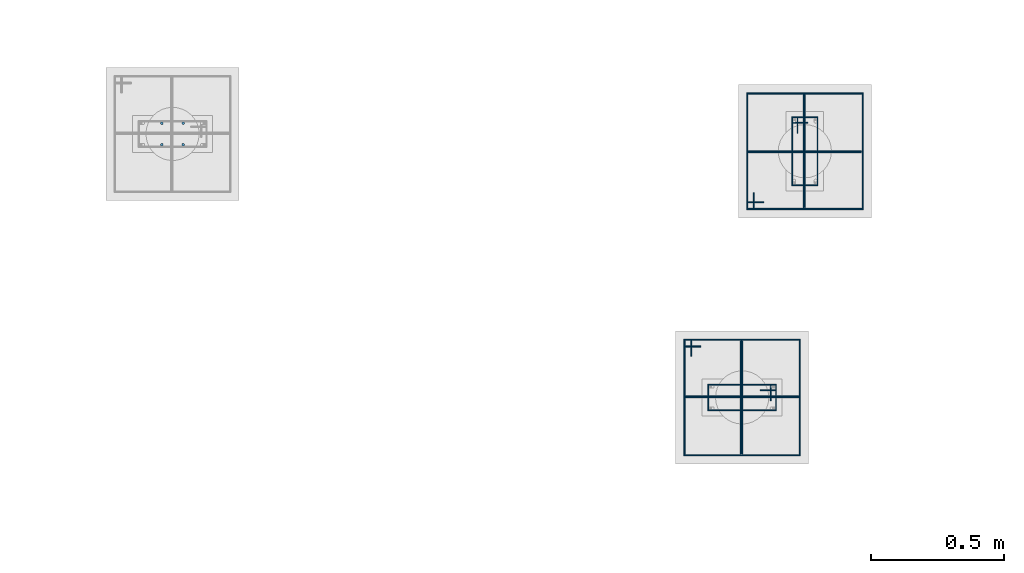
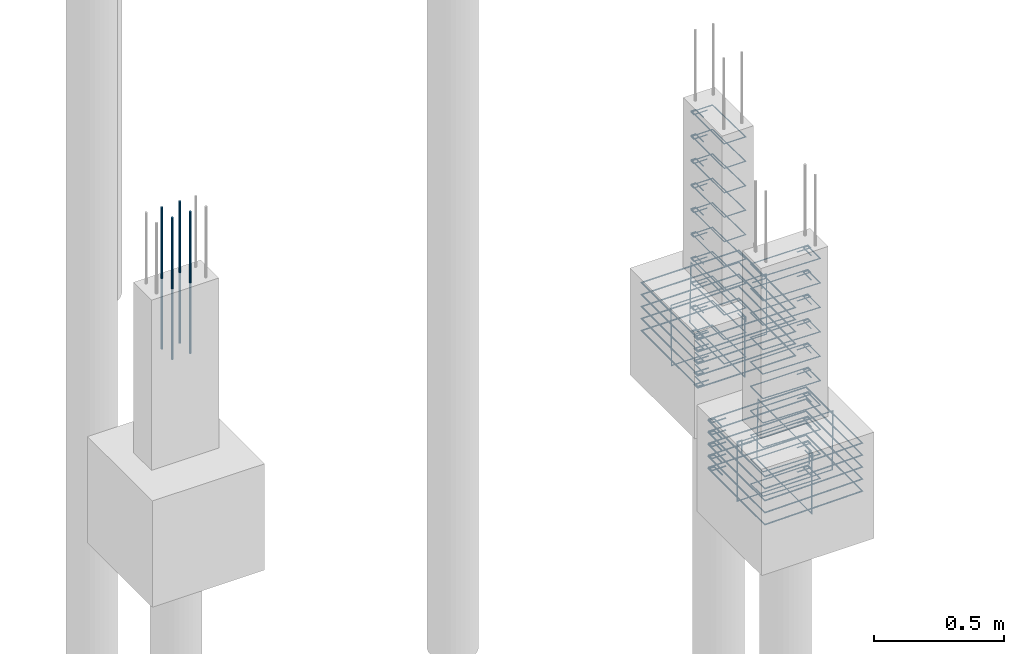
# One storey, part 69 of 119: 38 reinforcing bars.
"""IFC4 building model written with IfcOpenShell, lengths in centimetres."""

from ifc_helpers import new_model, entity, si_unit, derived_unit, frame, origin_with_axes, place, context, project, spatial, source, transform, mapped, element, save


model = new_model("IFC4")

# Units and contexts
model_context = context("Model", 3, precision=1e-05, world=origin_with_axes(), identifier="Body")
ifc_project = project(units=[si_unit("LENGTHUNIT", "METRE", prefix="CENTI"), si_unit("VOLUMEUNIT", "CUBIC_METRE"), si_unit("AREAUNIT", "SQUARE_METRE"), si_unit("POWERUNIT", "WATT"), si_unit("LUMINOUSFLUXUNIT", "LUMEN"), si_unit("ELECTRICCURRENTUNIT", "AMPERE"), si_unit("PRESSUREUNIT", "PASCAL", prefix="KILO"), si_unit("MASSUNIT", "GRAM", prefix="KILO"), si_unit("PLANEANGLEUNIT", "RADIAN"), derived_unit("VOLUMETRICFLOWRATEUNIT", [(si_unit("LENGTHUNIT", "METRE"), 3), (si_unit("TIMEUNIT", "SECOND"), -1)])], contexts=[model_context])

# Site, building, storey
site_placement = place(None, frame((-4000.0, 0.0, 0.0), z_axis=(0.0, 0.0, 1.0), x_axis=(1.0, 0.0, 0.0)))
site = spatial("IfcSite", under=ifc_project, at=site_placement, Name="PADRÃO")
building_placement = place(site_placement, frame((0.0, 0.0, -14.0)))
building = spatial("IfcBuilding", under=site, at=building_placement, Name="CRECHE PRÉ-ESCOLA TIPO 2")
storey_placement = place(building_placement, origin_with_axes())
storey = spatial("IfcBuildingStorey", under=building, at=storey_placement, Name="FUNDAÇÃO", CompositionType="ELEMENT", Elevation=-14.0)

# Reinforcing bars
shared_shape_1 = source(origin_with_axes(), model_context, "Body", "AdvancedSweptSolid", [
    entity("IfcSweptDiskSolid", entity("IfcCompositeCurve", [entity("IfcCompositeCurveSegment", "CONTINUOUS", True, entity("IfcPolyline", [entity("IfcCartesianPoint", [4.25, 21.75, 0.0]), entity("IfcCartesianPoint", [4.25, 27.75, 0.0])])), entity("IfcCompositeCurveSegment", "CONTINUOUS", True, entity("IfcPolyline", [entity("IfcCartesianPoint", [4.25, 27.75, 0.0]), entity("IfcCartesianPoint", [2.25, 27.75, 0.0])])), entity("IfcCompositeCurveSegment", "CONTINUOUS", True, entity("IfcPolyline", [entity("IfcCartesianPoint", [2.25, 27.75, 0.0]), entity("IfcCartesianPoint", [2.25, 2.25, 0.0])])), entity("IfcCompositeCurveSegment", "CONTINUOUS", True, entity("IfcPolyline", [entity("IfcCartesianPoint", [2.25, 2.25, 0.0]), entity("IfcCartesianPoint", [11.75, 2.25, 0.0])])), entity("IfcCompositeCurveSegment", "CONTINUOUS", True, entity("IfcPolyline", [entity("IfcCartesianPoint", [11.75, 2.25, 0.0]), entity("IfcCartesianPoint", [11.75, 27.75, -0.5])])), entity("IfcCompositeCurveSegment", "CONTINUOUS", True, entity("IfcPolyline", [entity("IfcCartesianPoint", [11.75, 27.75, -0.5]), entity("IfcCartesianPoint", [2.25, 27.75, -0.5])])), entity("IfcCompositeCurveSegment", "CONTINUOUS", True, entity("IfcPolyline", [entity("IfcCartesianPoint", [2.25, 27.75, -0.5]), entity("IfcCartesianPoint", [2.25, 25.75, -0.5])])), entity("IfcCompositeCurveSegment", "CONTINUOUS", True, entity("IfcPolyline", [entity("IfcCartesianPoint", [2.25, 25.75, -0.5]), entity("IfcCartesianPoint", [8.25, 25.75, -0.5])]))], False), 0.25),
])
for number, where, z_axis, x_axis, name in (
    (1, (496.57, 493.51, -63.25), (0.0, 0.0, 1.0), (1.0, 0.0, 0.0), "P136 - Estribo"),
    (2, (496.57, 493.51, -51.75), (0.0, 0.0, 1.0), (1.0, 0.0, 0.0), "P136 - Estribo"),
    (3, (496.57, 493.51, -28.75), (0.0, 0.0, 1.0), (1.0, 0.0, 0.0), "P136 - Estribo"),
    (4, (496.57, 493.51, -17.25), (0.0, 0.0, 1.0), (1.0, 0.0, 0.0), "P136 - Estribo"),
    (5, (496.57, 493.51, -5.75), (0.0, 0.0, 1.0), (1.0, 0.0, 0.0), "P136 - Estribo"),
    (6, (496.57, 493.51, -40.25), (0.0, 0.0, 1.0), (1.0, 0.0, 0.0), "P136 - Estribo"),
    (7, (496.57, 493.51, -109.25), (0.0, 0.0, 1.0), (1.0, 0.0, 0.0), "P136 - Estribo"),
    (8, (496.57, 493.51, -97.75), (0.0, 0.0, 1.0), (1.0, 0.0, 0.0), "P136 - Estribo"),
    (9, (496.57, 493.51, -86.25), (0.0, 0.0, 1.0), (1.0, 0.0, 0.0), "P136 - Estribo"),
    (10, (496.57, 493.51, -74.75), (0.0, 0.0, 1.0), (1.0, 0.0, 0.0), "P136 - Estribo"),
):
    element("IfcReinforcingBar", number, at=place(storey_placement, frame(where, z_axis=z_axis, x_axis=x_axis)), inside=storey, Name=name, BarLength=0.0, CrossSectionArea=1.9634954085e-05, NominalDiameter=0.5, PredefinedType="MAIN", context=model_context, shape_type="MappedRepresentation", body=[
        mapped(shared_shape_1, transform((0.0, 0.0, 0.0), scale=1.0)),
    ])
shared_shape_2 = source(origin_with_axes(), model_context, "Body", "AdvancedSweptSolid", [
    entity("IfcSweptDiskSolid", entity("IfcCompositeCurve", [entity("IfcCompositeCurveSegment", "CONTINUOUS", True, entity("IfcPolyline", [entity("IfcCartesianPoint", [488.145, 489.345, 0.0]), entity("IfcCartesianPoint", [481.885, 489.345, 0.0])])), entity("IfcCompositeCurveSegment", "CONTINUOUS", True, entity("IfcPolyline", [entity("IfcCartesianPoint", [481.885, 489.345, 0.0]), entity("IfcCartesianPoint", [481.885, 486.825, 0.0])])), entity("IfcCompositeCurveSegment", "CONTINUOUS", True, entity("IfcPolyline", [entity("IfcCartesianPoint", [481.885, 486.825, 0.0]), entity("IfcCartesianPoint", [525.255, 486.825, 0.0])])), entity("IfcCompositeCurveSegment", "CONTINUOUS", True, entity("IfcPolyline", [entity("IfcCartesianPoint", [525.255, 486.825, 0.0]), entity("IfcCartesianPoint", [525.255, 530.195, 0.63])])), entity("IfcCompositeCurveSegment", "CONTINUOUS", True, entity("IfcPolyline", [entity("IfcCartesianPoint", [525.255, 530.195, 0.63]), entity("IfcCartesianPoint", [481.885, 530.195, 0.63])])), entity("IfcCompositeCurveSegment", "CONTINUOUS", True, entity("IfcPolyline", [entity("IfcCartesianPoint", [481.885, 530.195, 0.63]), entity("IfcCartesianPoint", [481.885, 486.825, 0.63])])), entity("IfcCompositeCurveSegment", "CONTINUOUS", True, entity("IfcPolyline", [entity("IfcCartesianPoint", [481.885, 486.825, 0.63]), entity("IfcCartesianPoint", [484.405, 486.825, 0.63])])), entity("IfcCompositeCurveSegment", "CONTINUOUS", True, entity("IfcPolyline", [entity("IfcCartesianPoint", [484.405, 486.825, 0.63]), entity("IfcCartesianPoint", [484.405, 493.085, 0.63])]))], False), 0.315),
])
for number, where, z_axis, x_axis, name in (
    (11, (0.0, 0.0, -109.175), (0.0, 0.0, 1.0), (1.0, 0.0, 0.0), "P136 - Blocos (estribos)"),
    (12, (0.0, 0.0, -92.225), (0.0, 0.0, 1.0), (1.0, 0.0, 0.0), "P136 - Blocos (estribos)"),
    (13, (0.0, 0.0, -86.575), (0.0, 0.0, 1.0), (1.0, 0.0, 0.0), "P136 - Blocos (estribos)"),
    (14, (0.0, 0.0, -103.525), (0.0, 0.0, 1.0), (1.0, 0.0, 0.0), "P136 - Blocos (estribos)"),
    (15, (0.0, 0.0, -97.875), (0.0, 0.0, 1.0), (1.0, 0.0, 0.0), "P136 - Blocos (estribos)"),
):
    element("IfcReinforcingBar", number, at=place(storey_placement, frame(where, z_axis=z_axis, x_axis=x_axis)), inside=storey, Name=name, BarLength=0.0, CrossSectionArea=3.1172453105e-05, NominalDiameter=0.63, PredefinedType="MAIN", context=model_context, shape_type="MappedRepresentation", body=[
        mapped(shared_shape_2, transform((0.0, 0.0, 0.0), scale=1.0)),
    ])
shared_shape_3 = source(origin_with_axes(), model_context, "Body", "AdvancedSweptSolid", [
    entity("IfcSweptDiskSolid", entity("IfcCompositeCurve", [entity("IfcCompositeCurveSegment", "CONTINUOUS", True, entity("IfcPolyline", [entity("IfcCartesianPoint", [-15.12, -12.0, 0.0]), entity("IfcCartesianPoint", [-21.12, -12.0, 0.0])])), entity("IfcCompositeCurveSegment", "CONTINUOUS", True, entity("IfcPolyline", [entity("IfcCartesianPoint", [-21.12, -12.0, 0.0]), entity("IfcCartesianPoint", [-21.12, -14.0, 0.0])])), entity("IfcCompositeCurveSegment", "CONTINUOUS", True, entity("IfcPolyline", [entity("IfcCartesianPoint", [-21.12, -14.0, 0.0]), entity("IfcCartesianPoint", [21.12, -14.0, 0.0])])), entity("IfcCompositeCurveSegment", "CONTINUOUS", True, entity("IfcPolyline", [entity("IfcCartesianPoint", [21.12, -14.0, 0.0]), entity("IfcCartesianPoint", [21.12, 14.0, 0.5])])), entity("IfcCompositeCurveSegment", "CONTINUOUS", True, entity("IfcPolyline", [entity("IfcCartesianPoint", [21.12, 14.0, 0.5]), entity("IfcCartesianPoint", [-21.12, 14.0, 0.5])])), entity("IfcCompositeCurveSegment", "CONTINUOUS", True, entity("IfcPolyline", [entity("IfcCartesianPoint", [-21.12, 14.0, 0.5]), entity("IfcCartesianPoint", [-21.12, -14.0, 0.5])])), entity("IfcCompositeCurveSegment", "CONTINUOUS", True, entity("IfcPolyline", [entity("IfcCartesianPoint", [-21.12, -14.0, 0.5]), entity("IfcCartesianPoint", [-19.12, -14.0, 0.5])])), entity("IfcCompositeCurveSegment", "CONTINUOUS", True, entity("IfcPolyline", [entity("IfcCartesianPoint", [-19.12, -14.0, 0.5]), entity("IfcCartesianPoint", [-19.12, -8.0, 0.5])]))], False), 0.25),
])
reinforcing_bar_1_placement = place(storey_placement, frame((503.57, 508.51, -97.75), z_axis=(-1.0, 0.0, 0.0), x_axis=(0.0, 1.0, 0.0)))
element("IfcReinforcingBar", 16, at=reinforcing_bar_1_placement, inside=storey, Name="P136 - Blocos (estribos)", BarLength=0.0, CrossSectionArea=1.9634954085e-05, NominalDiameter=0.5, PredefinedType="MAIN", context=model_context, shape_type="MappedRepresentation", body=[
    mapped(shared_shape_3, transform((0.0, 0.0, 0.0), scale=1.0)),
])
shared_shape_4 = source(origin_with_axes(), model_context, "Body", "AdvancedSweptSolid", [
    entity("IfcSweptDiskSolid", entity("IfcCompositeCurve", [entity("IfcCompositeCurveSegment", "CONTINUOUS", True, entity("IfcPolyline", [entity("IfcCartesianPoint", [-15.12, -12.0, 0.0]), entity("IfcCartesianPoint", [-21.12, -12.0, 0.0])])), entity("IfcCompositeCurveSegment", "CONTINUOUS", True, entity("IfcPolyline", [entity("IfcCartesianPoint", [-21.12, -12.0, 0.0]), entity("IfcCartesianPoint", [-21.12, -14.0, 0.0])])), entity("IfcCompositeCurveSegment", "CONTINUOUS", True, entity("IfcPolyline", [entity("IfcCartesianPoint", [-21.12, -14.0, 0.0]), entity("IfcCartesianPoint", [21.12, -14.0, 0.0])])), entity("IfcCompositeCurveSegment", "CONTINUOUS", True, entity("IfcPolyline", [entity("IfcCartesianPoint", [21.12, -14.0, 0.0]), entity("IfcCartesianPoint", [21.12, 14.0, 0.5])])), entity("IfcCompositeCurveSegment", "CONTINUOUS", True, entity("IfcPolyline", [entity("IfcCartesianPoint", [21.12, 14.0, 0.5]), entity("IfcCartesianPoint", [-21.12, 14.0, 0.5])])), entity("IfcCompositeCurveSegment", "CONTINUOUS", True, entity("IfcPolyline", [entity("IfcCartesianPoint", [-21.12, 14.0, 0.5]), entity("IfcCartesianPoint", [-21.12, -14.0, 0.5])])), entity("IfcCompositeCurveSegment", "CONTINUOUS", True, entity("IfcPolyline", [entity("IfcCartesianPoint", [-21.12, -14.0, 0.5]), entity("IfcCartesianPoint", [-19.12, -14.0, 0.5])])), entity("IfcCompositeCurveSegment", "CONTINUOUS", True, entity("IfcPolyline", [entity("IfcCartesianPoint", [-19.12, -14.0, 0.5]), entity("IfcCartesianPoint", [-19.12, -8.0, 0.5])]))], False), 0.25),
])
reinforcing_bar_2_placement = place(storey_placement, frame((503.57, 508.51, -97.75), z_axis=(0.0, -1.0, 0.0), x_axis=(-1.0, 0.0, 0.0)))
element("IfcReinforcingBar", 17, at=reinforcing_bar_2_placement, inside=storey, Name="P136 - Blocos (estribos)", BarLength=0.0, CrossSectionArea=1.9634954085e-05, NominalDiameter=0.5, PredefinedType="MAIN", context=model_context, shape_type="MappedRepresentation", body=[
    mapped(shared_shape_4, transform((0.0, 0.0, 0.0), scale=1.0)),
])
shared_shape_5 = source(origin_with_axes(), model_context, "Body", "AdvancedSweptSolid", [
    entity("IfcSweptDiskSolid", entity("IfcCompositeCurve", [entity("IfcCompositeCurveSegment", "CONTINUOUS", True, entity("IfcPolyline", [entity("IfcCartesianPoint", [4.25, 21.75, 0.0]), entity("IfcCartesianPoint", [4.25, 27.75, 0.0])])), entity("IfcCompositeCurveSegment", "CONTINUOUS", True, entity("IfcPolyline", [entity("IfcCartesianPoint", [4.25, 27.75, 0.0]), entity("IfcCartesianPoint", [2.25, 27.75, 0.0])])), entity("IfcCompositeCurveSegment", "CONTINUOUS", True, entity("IfcPolyline", [entity("IfcCartesianPoint", [2.25, 27.75, 0.0]), entity("IfcCartesianPoint", [2.25, 2.25, 0.0])])), entity("IfcCompositeCurveSegment", "CONTINUOUS", True, entity("IfcPolyline", [entity("IfcCartesianPoint", [2.25, 2.25, 0.0]), entity("IfcCartesianPoint", [11.75, 2.25, 0.0])])), entity("IfcCompositeCurveSegment", "CONTINUOUS", True, entity("IfcPolyline", [entity("IfcCartesianPoint", [11.75, 2.25, 0.0]), entity("IfcCartesianPoint", [11.75, 27.75, -0.5])])), entity("IfcCompositeCurveSegment", "CONTINUOUS", True, entity("IfcPolyline", [entity("IfcCartesianPoint", [11.75, 27.75, -0.5]), entity("IfcCartesianPoint", [2.25, 27.75, -0.5])])), entity("IfcCompositeCurveSegment", "CONTINUOUS", True, entity("IfcPolyline", [entity("IfcCartesianPoint", [2.25, 27.75, -0.5]), entity("IfcCartesianPoint", [2.25, 25.75, -0.5])])), entity("IfcCompositeCurveSegment", "CONTINUOUS", True, entity("IfcPolyline", [entity("IfcCartesianPoint", [2.25, 25.75, -0.5]), entity("IfcCartesianPoint", [8.25, 25.75, -0.5])]))], False), 0.25),
])
for number, where, z_axis, x_axis, name in (
    (18, (465.0, 423.0, -97.75), (0.0, 0.0, 1.0), (0.0, -1.0, 0.0), "P143 - Estribo"),
    (19, (465.0, 423.0, -109.25), (0.0, 0.0, 1.0), (0.0, -1.0, 0.0), "P143 - Estribo"),
    (20, (465.0, 423.0, -86.25), (0.0, 0.0, 1.0), (0.0, -1.0, 0.0), "P143 - Estribo"),
    (21, (465.0, 423.0, -74.75), (0.0, 0.0, 1.0), (0.0, -1.0, 0.0), "P143 - Estribo"),
    (22, (465.0, 423.0, -63.25), (0.0, 0.0, 1.0), (0.0, -1.0, 0.0), "P143 - Estribo"),
    (23, (465.0, 423.0, -51.75), (0.0, 0.0, 1.0), (0.0, -1.0, 0.0), "P143 - Estribo"),
    (24, (465.0, 423.0, -40.25), (0.0, 0.0, 1.0), (0.0, -1.0, 0.0), "P143 - Estribo"),
    (25, (465.0, 423.0, -28.75), (0.0, 0.0, 1.0), (0.0, -1.0, 0.0), "P143 - Estribo"),
    (26, (465.0, 423.0, -17.25), (0.0, 0.0, 1.0), (0.0, -1.0, 0.0), "P143 - Estribo"),
    (27, (465.0, 423.0, -5.75), (0.0, 0.0, 1.0), (0.0, -1.0, 0.0), "P143 - Estribo"),
):
    element("IfcReinforcingBar", number, at=place(storey_placement, frame(where, z_axis=z_axis, x_axis=x_axis)), inside=storey, Name=name, BarLength=0.0, CrossSectionArea=1.9634954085e-05, NominalDiameter=0.5, PredefinedType="MAIN", context=model_context, shape_type="MappedRepresentation", body=[
        mapped(shared_shape_5, transform((0.0, 0.0, 0.0), scale=1.0)),
    ])
shared_shape_6 = source(origin_with_axes(), model_context, "Body", "AdvancedSweptSolid", [
    entity("IfcSweptDiskSolid", entity("IfcCompositeCurve", [entity("IfcCompositeCurveSegment", "CONTINUOUS", True, entity("IfcPolyline", [entity("IfcCartesianPoint", [460.835, 431.425, 0.0]), entity("IfcCartesianPoint", [460.835, 437.685, 0.0])])), entity("IfcCompositeCurveSegment", "CONTINUOUS", True, entity("IfcPolyline", [entity("IfcCartesianPoint", [460.835, 437.685, 0.0]), entity("IfcCartesianPoint", [458.315, 437.685, 0.0])])), entity("IfcCompositeCurveSegment", "CONTINUOUS", True, entity("IfcPolyline", [entity("IfcCartesianPoint", [458.315, 437.685, 0.0]), entity("IfcCartesianPoint", [458.315, 394.315, 0.0])])), entity("IfcCompositeCurveSegment", "CONTINUOUS", True, entity("IfcPolyline", [entity("IfcCartesianPoint", [458.315, 394.315, 0.0]), entity("IfcCartesianPoint", [501.685, 394.315, 0.63])])), entity("IfcCompositeCurveSegment", "CONTINUOUS", True, entity("IfcPolyline", [entity("IfcCartesianPoint", [501.685, 394.315, 0.63]), entity("IfcCartesianPoint", [501.685, 437.685, 0.63])])), entity("IfcCompositeCurveSegment", "CONTINUOUS", True, entity("IfcPolyline", [entity("IfcCartesianPoint", [501.685, 437.685, 0.63]), entity("IfcCartesianPoint", [458.315, 437.685, 0.63])])), entity("IfcCompositeCurveSegment", "CONTINUOUS", True, entity("IfcPolyline", [entity("IfcCartesianPoint", [458.315, 437.685, 0.63]), entity("IfcCartesianPoint", [458.315, 435.165, 0.63])])), entity("IfcCompositeCurveSegment", "CONTINUOUS", True, entity("IfcPolyline", [entity("IfcCartesianPoint", [458.315, 435.165, 0.63]), entity("IfcCartesianPoint", [464.575, 435.165, 0.63])]))], False), 0.315),
])
for number, where, z_axis, x_axis, name in (
    (28, (0.0, 0.0, -103.525), (0.0, 0.0, 1.0), (1.0, 0.0, 0.0), "P143 - Blocos (estribos)"),
    (29, (0.0, 0.0, -86.575), (0.0, 0.0, 1.0), (1.0, 0.0, 0.0), "P143 - Blocos (estribos)"),
    (30, (0.0, 0.0, -97.875), (0.0, 0.0, 1.0), (1.0, 0.0, 0.0), "P143 - Blocos (estribos)"),
    (31, (0.0, 0.0, -109.175), (0.0, 0.0, 1.0), (1.0, 0.0, 0.0), "P143 - Blocos (estribos)"),
    (32, (0.0, 0.0, -92.225), (0.0, 0.0, 1.0), (1.0, 0.0, 0.0), "P143 - Blocos (estribos)"),
):
    element("IfcReinforcingBar", number, at=place(storey_placement, frame(where, z_axis=z_axis, x_axis=x_axis)), inside=storey, Name=name, BarLength=0.0, CrossSectionArea=3.1172453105e-05, NominalDiameter=0.63, PredefinedType="MAIN", context=model_context, shape_type="MappedRepresentation", body=[
        mapped(shared_shape_6, transform((0.0, 0.0, 0.0), scale=1.0)),
    ])
shared_shape_7 = source(origin_with_axes(), model_context, "Body", "AdvancedSweptSolid", [
    entity("IfcSweptDiskSolid", entity("IfcCompositeCurve", [entity("IfcCompositeCurveSegment", "CONTINUOUS", True, entity("IfcPolyline", [entity("IfcCartesianPoint", [-15.12, -12.0, 0.0]), entity("IfcCartesianPoint", [-21.12, -12.0, 0.0])])), entity("IfcCompositeCurveSegment", "CONTINUOUS", True, entity("IfcPolyline", [entity("IfcCartesianPoint", [-21.12, -12.0, 0.0]), entity("IfcCartesianPoint", [-21.12, -14.0, 0.0])])), entity("IfcCompositeCurveSegment", "CONTINUOUS", True, entity("IfcPolyline", [entity("IfcCartesianPoint", [-21.12, -14.0, 0.0]), entity("IfcCartesianPoint", [21.12, -14.0, 0.0])])), entity("IfcCompositeCurveSegment", "CONTINUOUS", True, entity("IfcPolyline", [entity("IfcCartesianPoint", [21.12, -14.0, 0.0]), entity("IfcCartesianPoint", [21.12, 14.0, 0.5])])), entity("IfcCompositeCurveSegment", "CONTINUOUS", True, entity("IfcPolyline", [entity("IfcCartesianPoint", [21.12, 14.0, 0.5]), entity("IfcCartesianPoint", [-21.12, 14.0, 0.5])])), entity("IfcCompositeCurveSegment", "CONTINUOUS", True, entity("IfcPolyline", [entity("IfcCartesianPoint", [-21.12, 14.0, 0.5]), entity("IfcCartesianPoint", [-21.12, -14.0, 0.5])])), entity("IfcCompositeCurveSegment", "CONTINUOUS", True, entity("IfcPolyline", [entity("IfcCartesianPoint", [-21.12, -14.0, 0.5]), entity("IfcCartesianPoint", [-19.12, -14.0, 0.5])])), entity("IfcCompositeCurveSegment", "CONTINUOUS", True, entity("IfcPolyline", [entity("IfcCartesianPoint", [-19.12, -14.0, 0.5]), entity("IfcCartesianPoint", [-19.12, -8.0, 0.5])]))], False), 0.25),
])
reinforcing_bar_3_placement = place(storey_placement, frame((480.0, 416.0, -97.75), z_axis=(0.0, 1.0, 0.0), x_axis=(1.0, 0.0, 0.0)))
element("IfcReinforcingBar", 33, at=reinforcing_bar_3_placement, inside=storey, Name="P143 - Blocos (estribos)", BarLength=0.0, CrossSectionArea=1.9634954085e-05, NominalDiameter=0.5, PredefinedType="MAIN", context=model_context, shape_type="MappedRepresentation", body=[
    mapped(shared_shape_7, transform((0.0, 0.0, 0.0), scale=1.0)),
])
shared_shape_8 = source(origin_with_axes(), model_context, "Body", "AdvancedSweptSolid", [
    entity("IfcSweptDiskSolid", entity("IfcCompositeCurve", [entity("IfcCompositeCurveSegment", "CONTINUOUS", True, entity("IfcPolyline", [entity("IfcCartesianPoint", [-15.12, -12.0, 0.0]), entity("IfcCartesianPoint", [-21.12, -12.0, 0.0])])), entity("IfcCompositeCurveSegment", "CONTINUOUS", True, entity("IfcPolyline", [entity("IfcCartesianPoint", [-21.12, -12.0, 0.0]), entity("IfcCartesianPoint", [-21.12, -14.0, 0.0])])), entity("IfcCompositeCurveSegment", "CONTINUOUS", True, entity("IfcPolyline", [entity("IfcCartesianPoint", [-21.12, -14.0, 0.0]), entity("IfcCartesianPoint", [21.12, -14.0, 0.0])])), entity("IfcCompositeCurveSegment", "CONTINUOUS", True, entity("IfcPolyline", [entity("IfcCartesianPoint", [21.12, -14.0, 0.0]), entity("IfcCartesianPoint", [21.12, 14.0, 0.5])])), entity("IfcCompositeCurveSegment", "CONTINUOUS", True, entity("IfcPolyline", [entity("IfcCartesianPoint", [21.12, 14.0, 0.5]), entity("IfcCartesianPoint", [-21.12, 14.0, 0.5])])), entity("IfcCompositeCurveSegment", "CONTINUOUS", True, entity("IfcPolyline", [entity("IfcCartesianPoint", [-21.12, 14.0, 0.5]), entity("IfcCartesianPoint", [-21.12, -14.0, 0.5])])), entity("IfcCompositeCurveSegment", "CONTINUOUS", True, entity("IfcPolyline", [entity("IfcCartesianPoint", [-21.12, -14.0, 0.5]), entity("IfcCartesianPoint", [-19.12, -14.0, 0.5])])), entity("IfcCompositeCurveSegment", "CONTINUOUS", True, entity("IfcPolyline", [entity("IfcCartesianPoint", [-19.12, -14.0, 0.5]), entity("IfcCartesianPoint", [-19.12, -8.0, 0.5])]))], False), 0.25),
])
reinforcing_bar_4_placement = place(storey_placement, frame((480.0, 416.0, -97.75), z_axis=(-1.0, 0.0, 0.0), x_axis=(0.0, 1.0, 0.0)))
element("IfcReinforcingBar", 34, at=reinforcing_bar_4_placement, inside=storey, Name="P143 - Blocos (estribos)", BarLength=0.0, CrossSectionArea=1.9634954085e-05, NominalDiameter=0.5, PredefinedType="MAIN", context=model_context, shape_type="MappedRepresentation", body=[
    mapped(shared_shape_8, transform((0.0, 0.0, 0.0), scale=1.0)),
])
for number, where, z_axis, x_axis, name in (
    (35, (262.0, 511.0, 33.3573001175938), (0.0, 0.0, 1.0), (1.0, 0.0, 0.0), "P135 - Longitudinal"),
    (36, (270.0, 511.0, 33.3573001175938), (0.0, 0.0, 1.0), (1.0, 0.0, 0.0), "P135 - Longitudinal"),
    (37, (262.0, 519.0, 33.3573001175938), (0.0, 0.0, 1.0), (1.0, 0.0, 0.0), "P135 - Longitudinal"),
    (38, (270.0, 519.0, 33.3573001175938), (0.0, 0.0, 1.0), (1.0, 0.0, 0.0), "P135 - Longitudinal"),
):
    element("IfcReinforcingBar", number, at=place(storey_placement, frame(where, z_axis=z_axis, x_axis=x_axis)), inside=storey, Name=name, BarLength=0.0, CrossSectionArea=7.853981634e-05, NominalDiameter=1.0, PredefinedType="MAIN", context=model_context, shape_type="AdvancedSweptSolid", body=[
        entity("IfcSweptDiskSolid", entity("IfcCompositeCurve", [entity("IfcCompositeCurveSegment", "CONTINUOUS", True, entity("IfcPolyline", [entity("IfcCartesianPoint", [0.0, 0.0, -66.7146002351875]), entity("IfcCartesianPoint", [0.0, 0.0, 0.0])]))], False), 0.5),
    ])

save(model, "model.ifc")
